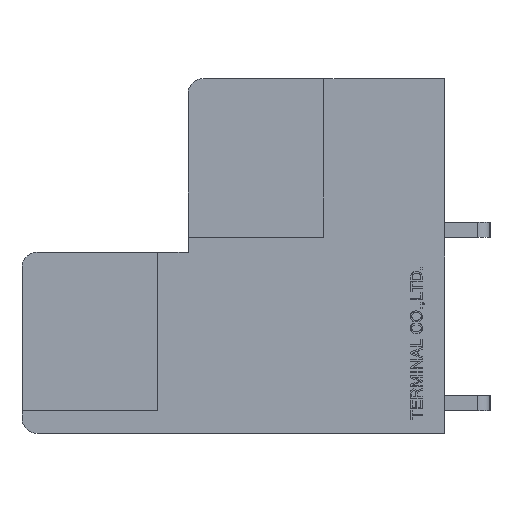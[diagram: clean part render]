
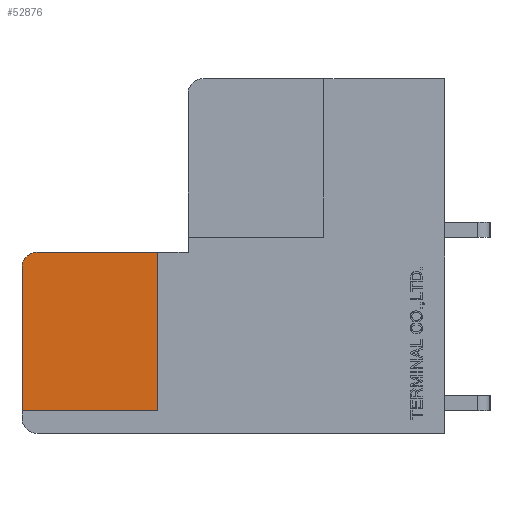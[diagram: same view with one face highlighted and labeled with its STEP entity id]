
A CAD part, left-side view. The second image highlights one B-rep face of the part: STEP entity #52876.
In plain terms, the highlighted planar face has unit normal (-1, 0, 0).
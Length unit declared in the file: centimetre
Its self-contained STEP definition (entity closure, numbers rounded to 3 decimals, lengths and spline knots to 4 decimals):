
#2157=VECTOR('',#55434,1.);
#3210=VECTOR('',#57653,1.);
#4160=VECTOR('',#59762,1.);
#4163=VECTOR('',#59766,1.);
#8024=LINE('',#65491,#2157);
#9077=LINE('',#68559,#3210);
#10027=LINE('',#71415,#4160);
#10030=LINE('',#71421,#4163);
#14594=PLANE('',#86614);
#16157=CIRCLE('',#86615,0.1);
#16509=VERTEX_POINT('',#65490);
#16510=VERTEX_POINT('',#65492);
#17493=VERTEX_POINT('',#68558);
#17494=VERTEX_POINT('',#68560);
#18373=VERTEX_POINT('',#71416);
#21995=EDGE_CURVE('',#16509,#16510,#8024,.T.);
#23467=EDGE_CURVE('',#17493,#17494,#9077,.T.);
#24834=EDGE_CURVE('',#18373,#17493,#10027,.T.);
#24837=EDGE_CURVE('',#16510,#18373,#10030,.T.);
#25332=EDGE_CURVE('',#17494,#16509,#16157,.T.);
#36975=ORIENTED_EDGE('',*,*,#24837,.F.);
#36976=ORIENTED_EDGE('',*,*,#21995,.F.);
#36977=ORIENTED_EDGE('',*,*,#25332,.F.);
#36978=ORIENTED_EDGE('',*,*,#23467,.F.);
#36979=ORIENTED_EDGE('',*,*,#24834,.F.);
#46557=EDGE_LOOP('',(#36975,#36976,#36977,#36978,#36979));
#49807=FACE_BOUND('',#46557,.T.);
#52876=ADVANCED_FACE('',(#49807),#14594,.F.);
#55434=DIRECTION('',(0.,-1.,0.));
#57653=DIRECTION('',(0.,0.,1.));
#59762=DIRECTION('',(0.,1.,0.));
#59766=DIRECTION('',(0.,0.,-1.));
#60285=DIRECTION('',(1.,0.,0.));
#60286=DIRECTION('',(1.,0.,0.));
#60287=DIRECTION('',(0.,0.,-0.1));
#65490=CARTESIAN_POINT('',(-1.1,2.7,1.2));
#65491=CARTESIAN_POINT('',(-1.1,2.7,1.2));
#65492=CARTESIAN_POINT('',(-1.1,1.9,1.2));
#68558=CARTESIAN_POINT('',(-1.1,2.8,0.15));
#68559=CARTESIAN_POINT('',(-1.1,2.8,0.1));
#68560=CARTESIAN_POINT('',(-1.1,2.8,1.1));
#71415=CARTESIAN_POINT('',(-1.1,2.8,0.15));
#71416=CARTESIAN_POINT('',(-1.1,1.9,0.15));
#71421=CARTESIAN_POINT('',(-1.1,1.9,0.15));
#72893=CARTESIAN_POINT('',(-1.1,1.3846,0.6));
#72894=CARTESIAN_POINT('',(-1.1,2.7,1.1));
#86614=AXIS2_PLACEMENT_3D('',#72893,#60285,$);
#86615=AXIS2_PLACEMENT_3D('',#72894,#60286,#60287);
